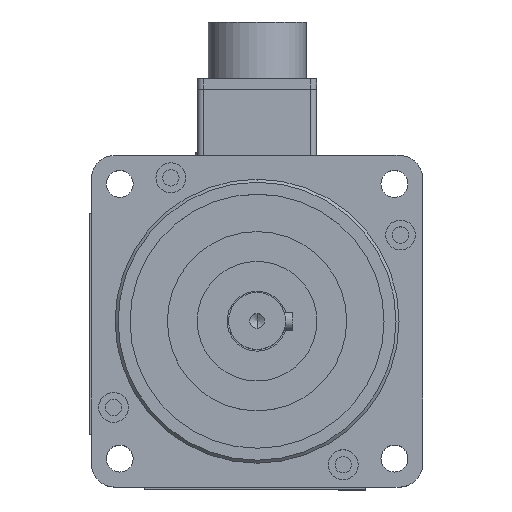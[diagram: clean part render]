
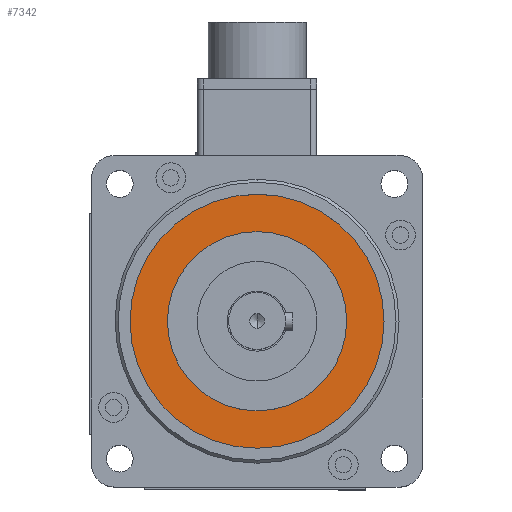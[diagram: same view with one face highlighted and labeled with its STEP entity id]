
A CAD part, top view. The second image highlights one B-rep face of the part: STEP entity #7342.
In plain terms, the highlighted planar face has unit normal (0, 0, 1).
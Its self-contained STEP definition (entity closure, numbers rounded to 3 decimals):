
#440 = DIRECTION ( 'NONE',  ( 0., 0., -1. ) ) ;
#705 = VERTEX_POINT ( 'NONE', #12901 ) ;
#872 = CIRCLE ( 'NONE', #10222, 30. ) ;
#1455 = DIRECTION ( 'NONE',  ( 1., 0., 0. ) ) ;
#1479 = CARTESIAN_POINT ( 'NONE',  ( -78.903, 43.439, 254.2 ) ) ;
#2620 = ORIENTED_EDGE ( 'NONE', *, *, #16137, .T. ) ;
#5287 = AXIS2_PLACEMENT_3D ( 'NONE', #6608, #19112, #25626 ) ;
#5814 = EDGE_CURVE ( 'NONE', #705, #13263, #5892, .T. ) ;
#5892 = CIRCLE ( 'NONE', #5287, 42.5 ) ;
#6608 = CARTESIAN_POINT ( 'NONE',  ( -78.903, 43.439, 254.2 ) ) ;
#7342 = ADVANCED_FACE ( 'NONE', ( #26095, #18228 ), #23039, .T. ) ;
#7478 = EDGE_CURVE ( 'NONE', #12815, #26313, #872, .T. ) ;
#7589 = DIRECTION ( 'NONE',  ( 0., 0., -1. ) ) ;
#9144 = ORIENTED_EDGE ( 'NONE', *, *, #5814, .T. ) ;
#9703 = CARTESIAN_POINT ( 'NONE',  ( -108.903, 43.439, 254.2 ) ) ;
#10222 = AXIS2_PLACEMENT_3D ( 'NONE', #21300, #440, #25333 ) ;
#11935 = DIRECTION ( 'NONE',  ( 0., 0., 1. ) ) ;
#12465 = DIRECTION ( 'NONE',  ( 0., 0., 1. ) ) ;
#12815 = VERTEX_POINT ( 'NONE', #17257 ) ;
#12845 = AXIS2_PLACEMENT_3D ( 'NONE', #25150, #12465, #23230 ) ;
#12901 = CARTESIAN_POINT ( 'NONE',  ( -36.403, 43.439, 254.2 ) ) ;
#13250 = EDGE_LOOP ( 'NONE', ( #24059, #2620 ) ) ;
#13263 = VERTEX_POINT ( 'NONE', #14512 ) ;
#13835 = CARTESIAN_POINT ( 'NONE',  ( -78.903, 43.439, 254.2 ) ) ;
#14512 = CARTESIAN_POINT ( 'NONE',  ( -121.403, 43.439, 254.2 ) ) ;
#16137 = EDGE_CURVE ( 'NONE', #26313, #12815, #24297, .T. ) ;
#16307 = DIRECTION ( 'NONE',  ( 1., 0., 0. ) ) ;
#17257 = CARTESIAN_POINT ( 'NONE',  ( -48.903, 43.439, 254.2 ) ) ;
#17350 = EDGE_CURVE ( 'NONE', #13263, #705, #24562, .T. ) ;
#18228 = FACE_BOUND ( 'NONE', #13250, .T. ) ;
#19112 = DIRECTION ( 'NONE',  ( 0., 0., 1. ) ) ;
#21300 = CARTESIAN_POINT ( 'NONE',  ( -78.903, 43.439, 254.2 ) ) ;
#21511 = AXIS2_PLACEMENT_3D ( 'NONE', #1479, #11935, #16307 ) ;
#23007 = EDGE_LOOP ( 'NONE', ( #9144, #24243 ) ) ;
#23039 = PLANE ( 'NONE',  #12845 ) ;
#23230 = DIRECTION ( 'NONE',  ( 1., 0., 0. ) ) ;
#24059 = ORIENTED_EDGE ( 'NONE', *, *, #7478, .T. ) ;
#24243 = ORIENTED_EDGE ( 'NONE', *, *, #17350, .T. ) ;
#24297 = CIRCLE ( 'NONE', #26129, 30. ) ;
#24562 = CIRCLE ( 'NONE', #21511, 42.5 ) ;
#25150 = CARTESIAN_POINT ( 'NONE',  ( -78.903, 43.439, 254.2 ) ) ;
#25333 = DIRECTION ( 'NONE',  ( 1., 0., 0. ) ) ;
#25626 = DIRECTION ( 'NONE',  ( 1., 0., 0. ) ) ;
#26095 = FACE_OUTER_BOUND ( 'NONE', #23007, .T. ) ;
#26129 = AXIS2_PLACEMENT_3D ( 'NONE', #13835, #7589, #1455 ) ;
#26313 = VERTEX_POINT ( 'NONE', #9703 ) ;
